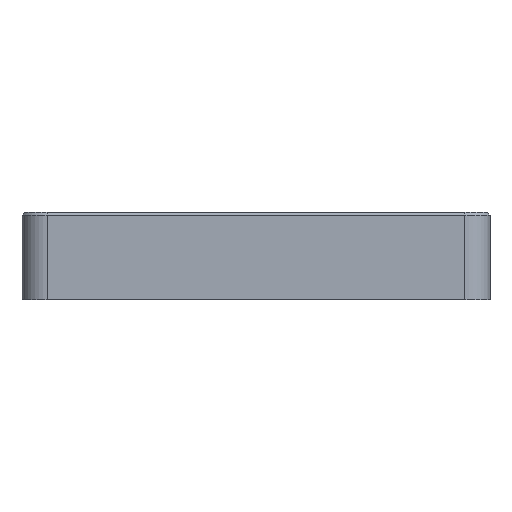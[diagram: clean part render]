
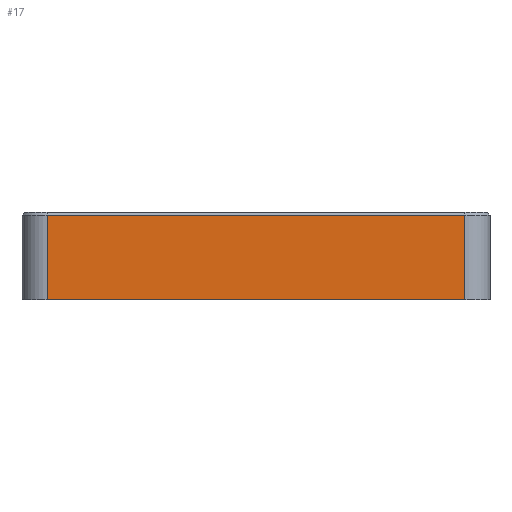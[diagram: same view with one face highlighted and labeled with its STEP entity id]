
A CAD part, left-side view. The second image highlights one B-rep face of the part: STEP entity #17.
In plain terms, the highlighted planar face has unit normal (-1, 0, 0).
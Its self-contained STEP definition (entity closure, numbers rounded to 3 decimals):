
#17 = ADVANCED_FACE('',(#18),#32,.F.);
#18 = FACE_BOUND('',#19,.T.);
#19 = EDGE_LOOP('',(#20,#55,#83,#111));
#20 = ORIENTED_EDGE('',*,*,#21,.F.);
#21 = EDGE_CURVE('',#22,#24,#26,.T.);
#22 = VERTEX_POINT('',#23);
#23 = CARTESIAN_POINT('',(-39.5,-24.9,11.05));
#24 = VERTEX_POINT('',#25);
#25 = CARTESIAN_POINT('',(-39.5,-24.9,1.));
#26 = SURFACE_CURVE('',#27,(#31,#43),.PCURVE_S1.);
#27 = LINE('',#28,#29);
#28 = CARTESIAN_POINT('',(-39.5,-24.9,11.4));
#29 = VECTOR('',#30,1.);
#30 = DIRECTION('',(-0.,-0.,-1.));
#31 = PCURVE('',#32,#37);
#32 = PLANE('',#33);
#33 = AXIS2_PLACEMENT_3D('',#34,#35,#36);
#34 = CARTESIAN_POINT('',(-39.5,-27.9,11.4));
#35 = DIRECTION('',(1.,0.,-0.));
#36 = DIRECTION('',(0.,0.,1.));
#37 = DEFINITIONAL_REPRESENTATION('',(#38),#42);
#38 = LINE('',#39,#40);
#39 = CARTESIAN_POINT('',(-0.,-3.));
#40 = VECTOR('',#41,1.);
#41 = DIRECTION('',(-1.,0.));
#42 = ( GEOMETRIC_REPRESENTATION_CONTEXT(2) 
PARAMETRIC_REPRESENTATION_CONTEXT() REPRESENTATION_CONTEXT('2D SPACE',''
  ) );
#43 = PCURVE('',#44,#49);
#44 = CYLINDRICAL_SURFACE('',#45,3.);
#45 = AXIS2_PLACEMENT_3D('',#46,#47,#48);
#46 = CARTESIAN_POINT('',(-36.5,-24.9,11.4));
#47 = DIRECTION('',(-0.,-0.,-1.));
#48 = DIRECTION('',(-1.,-0.,-0.));
#49 = DEFINITIONAL_REPRESENTATION('',(#50),#54);
#50 = LINE('',#51,#52);
#51 = CARTESIAN_POINT('',(-0.,0.));
#52 = VECTOR('',#53,1.);
#53 = DIRECTION('',(-0.,1.));
#54 = ( GEOMETRIC_REPRESENTATION_CONTEXT(2) 
PARAMETRIC_REPRESENTATION_CONTEXT() REPRESENTATION_CONTEXT('2D SPACE',''
  ) );
#55 = ORIENTED_EDGE('',*,*,#56,.T.);
#56 = EDGE_CURVE('',#22,#57,#59,.T.);
#57 = VERTEX_POINT('',#58);
#58 = CARTESIAN_POINT('',(-39.5,24.9,11.05));
#59 = SURFACE_CURVE('',#60,(#64,#71),.PCURVE_S1.);
#60 = LINE('',#61,#62);
#61 = CARTESIAN_POINT('',(-39.5,-24.9,11.05));
#62 = VECTOR('',#63,1.);
#63 = DIRECTION('',(-0.,1.,-0.));
#64 = PCURVE('',#32,#65);
#65 = DEFINITIONAL_REPRESENTATION('',(#66),#70);
#66 = LINE('',#67,#68);
#67 = CARTESIAN_POINT('',(-0.35,-3.));
#68 = VECTOR('',#69,1.);
#69 = DIRECTION('',(-0.,-1.));
#70 = ( GEOMETRIC_REPRESENTATION_CONTEXT(2) 
PARAMETRIC_REPRESENTATION_CONTEXT() REPRESENTATION_CONTEXT('2D SPACE',''
  ) );
#71 = PCURVE('',#72,#77);
#72 = PLANE('',#73);
#73 = AXIS2_PLACEMENT_3D('',#74,#75,#76);
#74 = CARTESIAN_POINT('',(-39.325,-24.9,11.225));
#75 = DIRECTION('',(-0.707,0.,0.707)
  );
#76 = DIRECTION('',(0.,-1.,0.));
#77 = DEFINITIONAL_REPRESENTATION('',(#78),#82);
#78 = LINE('',#79,#80);
#79 = CARTESIAN_POINT('',(0.,-0.247));
#80 = VECTOR('',#81,1.);
#81 = DIRECTION('',(-1.,0.));
#82 = ( GEOMETRIC_REPRESENTATION_CONTEXT(2) 
PARAMETRIC_REPRESENTATION_CONTEXT() REPRESENTATION_CONTEXT('2D SPACE',''
  ) );
#83 = ORIENTED_EDGE('',*,*,#84,.T.);
#84 = EDGE_CURVE('',#57,#85,#87,.T.);
#85 = VERTEX_POINT('',#86);
#86 = CARTESIAN_POINT('',(-39.5,24.9,1.));
#87 = SURFACE_CURVE('',#88,(#92,#99),.PCURVE_S1.);
#88 = LINE('',#89,#90);
#89 = CARTESIAN_POINT('',(-39.5,24.9,11.4));
#90 = VECTOR('',#91,1.);
#91 = DIRECTION('',(-0.,-0.,-1.));
#92 = PCURVE('',#32,#93);
#93 = DEFINITIONAL_REPRESENTATION('',(#94),#98);
#94 = LINE('',#95,#96);
#95 = CARTESIAN_POINT('',(-0.,-52.8));
#96 = VECTOR('',#97,1.);
#97 = DIRECTION('',(-1.,0.));
#98 = ( GEOMETRIC_REPRESENTATION_CONTEXT(2) 
PARAMETRIC_REPRESENTATION_CONTEXT() REPRESENTATION_CONTEXT('2D SPACE',''
  ) );
#99 = PCURVE('',#100,#105);
#100 = CYLINDRICAL_SURFACE('',#101,3.);
#101 = AXIS2_PLACEMENT_3D('',#102,#103,#104);
#102 = CARTESIAN_POINT('',(-36.5,24.9,11.4));
#103 = DIRECTION('',(-0.,-0.,-1.));
#104 = DIRECTION('',(-1.,-0.,-0.));
#105 = DEFINITIONAL_REPRESENTATION('',(#106),#110);
#106 = LINE('',#107,#108);
#107 = CARTESIAN_POINT('',(0.,0.));
#108 = VECTOR('',#109,1.);
#109 = DIRECTION('',(0.,1.));
#110 = ( GEOMETRIC_REPRESENTATION_CONTEXT(2) 
PARAMETRIC_REPRESENTATION_CONTEXT() REPRESENTATION_CONTEXT('2D SPACE',''
  ) );
#111 = ORIENTED_EDGE('',*,*,#112,.F.);
#112 = EDGE_CURVE('',#24,#85,#113,.T.);
#113 = SURFACE_CURVE('',#114,(#118,#125),.PCURVE_S1.);
#114 = LINE('',#115,#116);
#115 = CARTESIAN_POINT('',(-39.5,-27.9,1.));
#116 = VECTOR('',#117,1.);
#117 = DIRECTION('',(-0.,1.,0.));
#118 = PCURVE('',#32,#119);
#119 = DEFINITIONAL_REPRESENTATION('',(#120),#124);
#120 = LINE('',#121,#122);
#121 = CARTESIAN_POINT('',(-10.4,0.));
#122 = VECTOR('',#123,1.);
#123 = DIRECTION('',(-0.,-1.));
#124 = ( GEOMETRIC_REPRESENTATION_CONTEXT(2) 
PARAMETRIC_REPRESENTATION_CONTEXT() REPRESENTATION_CONTEXT('2D SPACE',''
  ) );
#125 = PCURVE('',#126,#131);
#126 = PLANE('',#127);
#127 = AXIS2_PLACEMENT_3D('',#128,#129,#130);
#128 = CARTESIAN_POINT('',(-39.5,-27.9,1.));
#129 = DIRECTION('',(-0.,-0.,-1.));
#130 = DIRECTION('',(-1.,0.,0.));
#131 = DEFINITIONAL_REPRESENTATION('',(#132),#136);
#132 = LINE('',#133,#134);
#133 = CARTESIAN_POINT('',(-0.,0.));
#134 = VECTOR('',#135,1.);
#135 = DIRECTION('',(-0.,1.));
#136 = ( GEOMETRIC_REPRESENTATION_CONTEXT(2) 
PARAMETRIC_REPRESENTATION_CONTEXT() REPRESENTATION_CONTEXT('2D SPACE',''
  ) );
